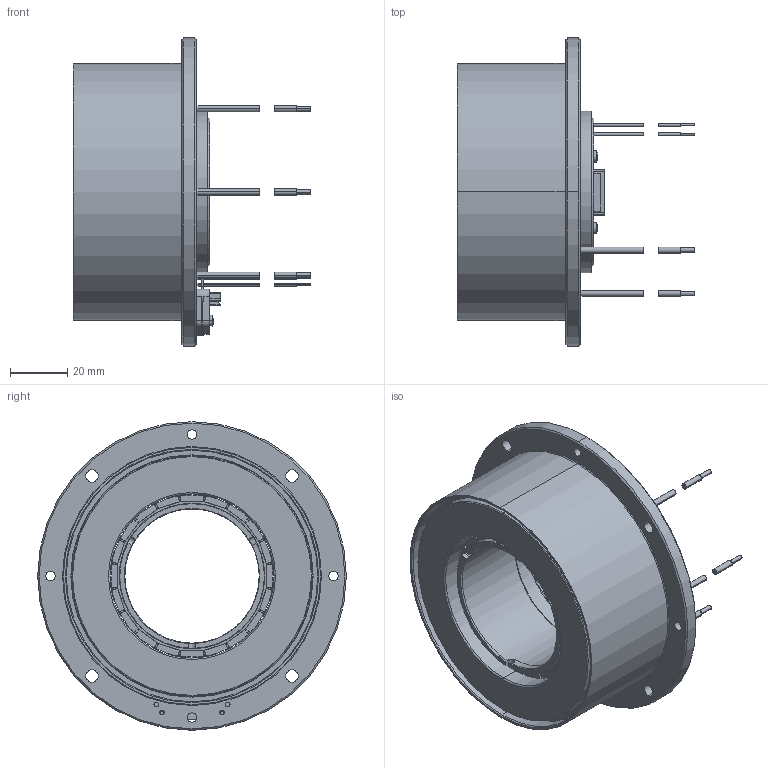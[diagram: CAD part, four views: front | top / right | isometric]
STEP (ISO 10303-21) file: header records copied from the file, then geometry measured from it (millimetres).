
FILE_DESCRIPTION((''),'2;1');
FILE_NAME('EC_FRAMELESS_DT85L-TSX-MAG-AX','2022-11-15T14:49:17',('MMAGVISI'),(''),'CREO PARAMETRIC BY PTC INC, 2020342','CREO PARAMETRIC BY PTC INC, 2020342','');
FILE_SCHEMA(('CONFIG_CONTROL_DESIGN','SHAPE_APPEARANCE_LAYERS_GROUPS'));
Length unit declared in the file: millimetre
Products named in the file (1): EC_FRAMELESS_DT85L-TSX-MAG-AX
Bounding box: 83.05 x 108 x 108 mm (x, y, z)
Volume: 195096.6 mm3; surface area: 66959.2 mm2
Topology: 27 solids, 27 shells, 1270 faces, 3471 edges, 2309 vertices
Faces by surface type: plane 806, cylinder 286, torus 120, cone 54, sphere 4
Entity records: 52414 total; most frequent: CARTESIAN_POINT 9644, ORIENTED_EDGE 6938, DIRECTION 6289, PRESENTATION_STYLE_ASSIGNMENT 3496, STYLED_ITEM 3496, CURVE_STYLE 3469, EDGE_CURVE 3469, VERTEX_POINT 2309
